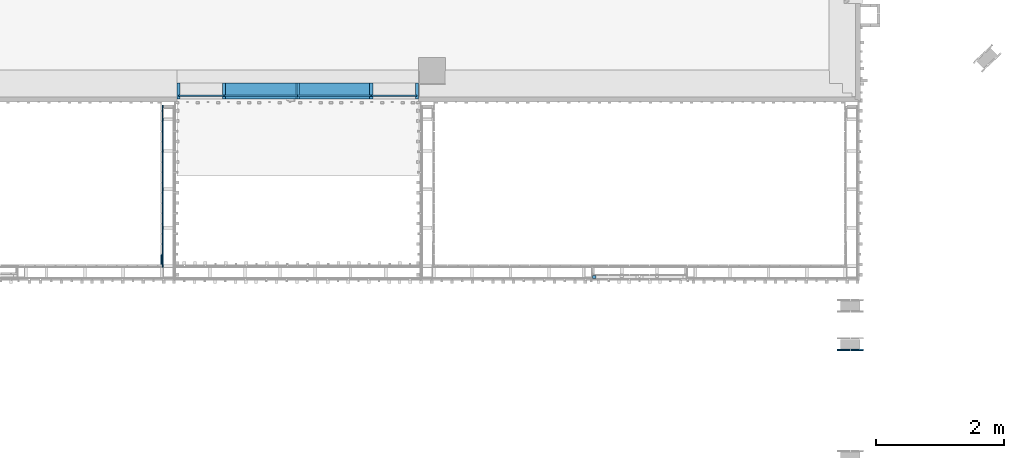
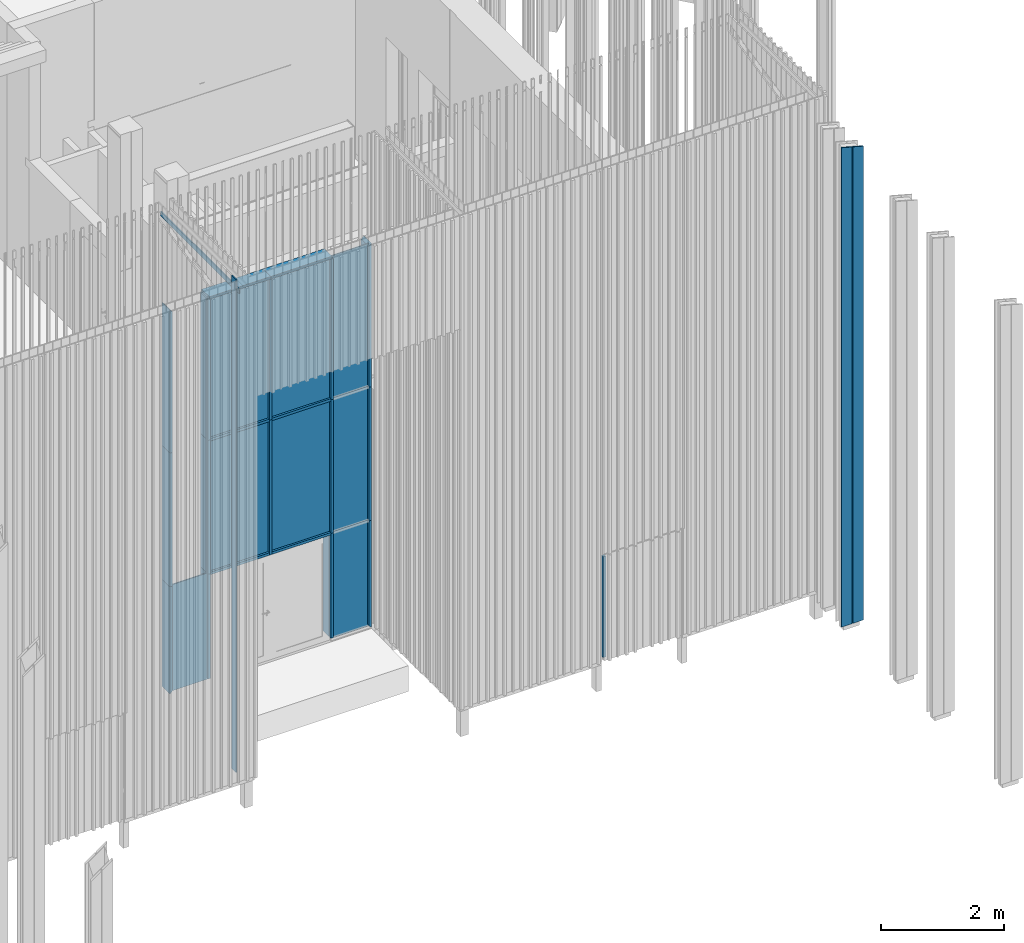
# One storey, part 37 of 390: 33 discrete accessories, 1 element without a shape of its own.
"""IFC2X3 building model written with IfcOpenShell, lengths in millimetres."""

from ifc_helpers import new_model, entity, si_unit, converted_unit, derived_unit, money_unit, direction, frame, frame_2d, origin_with_axes, origin_2d_with_axis, place, context, subcontext, project, spatial, polyline, rectangle, hollow_rectangle, outline, composite_profile, extrude, clip, halfspace, faceted_brep, source, transform, mapped, material, material_list, type_object, element, aggregate, save


model = new_model("IFC2X3")

# Units and contexts
model_context = context("Model", 3, precision=1e-05, world=origin_with_axes(), true_north=direction((0.0, 1.0)))
body_context = subcontext(model_context, "Body", "Model", "MODEL_VIEW")
ifc_project = project(units=[si_unit("LENGTHUNIT", "METRE", prefix="MILLI"), si_unit("AREAUNIT", "SQUARE_METRE"), si_unit("VOLUMEUNIT", "CUBIC_METRE"), converted_unit("PLANEANGLEUNIT", "DEGREE", entity("IfcPlaneAngleMeasure", 0.0174532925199), si_unit("PLANEANGLEUNIT", "RADIAN"), dimensions=[0, 0, 0, 0, 0, 0, 0]), si_unit("SOLIDANGLEUNIT", "STERADIAN"), money_unit("EUR"), converted_unit("TIMEUNIT", "Year", entity("IfcTimeMeasure", 31556926.0), si_unit("TIMEUNIT", "SECOND"), dimensions=[0, 0, 1, 0, 0, 0, 0]), si_unit("MASSUNIT", "GRAM", prefix="KILO"), si_unit("THERMODYNAMICTEMPERATUREUNIT", "DEGREE_CELSIUS"), si_unit("LUMINOUSINTENSITYUNIT", "LUMEN"), si_unit("ENERGYUNIT", "JOULE", prefix="MEGA"), derived_unit("THERMALCONDUCTANCEUNIT", [(si_unit("POWERUNIT", "WATT"), 1), (si_unit("LENGTHUNIT", "METRE"), -1), (si_unit("THERMODYNAMICTEMPERATUREUNIT", "KELVIN"), -1)]), derived_unit("SPECIFICHEATCAPACITYUNIT", [(si_unit("ENERGYUNIT", "JOULE"), 1), (si_unit("MASSUNIT", "GRAM", prefix="KILO"), -1), (si_unit("THERMODYNAMICTEMPERATUREUNIT", "KELVIN"), -1)]), derived_unit("MASSDENSITYUNIT", [(si_unit("MASSUNIT", "GRAM", prefix="KILO"), 1), (si_unit("VOLUMEUNIT", "CUBIC_METRE"), -1)])], contexts=[model_context])

# Site, building, storey
site_placement = place(None, origin_with_axes())
site = spatial("IfcSite", under=ifc_project, at=site_placement, Name="Site", CompositionType="ELEMENT")
building_placement = place(site_placement, origin_with_axes())
building = spatial("IfcBuilding", under=site, at=building_placement, Name="Building", CompositionType="ELEMENT")
storey_placement = place(building_placement, origin_with_axes())
storey = spatial("IfcBuildingStorey", under=building, at=storey_placement, Name="1 korrus", CompositionType="ELEMENT", Elevation=0.0)

# Discrete accessories
ifc_material_1 = material(Name="Puit - Konstruktsioon")
discrete_accessory_type_1 = type_object("IfcDiscreteAccessoryType", Name="Puit - Konstruktsioon 21 x 95")
discrete_accessory_1_placement = place(storey_placement, frame((128879.502725, 45214.0000337, 9710.00000604), z_axis=(0.0, 0.0, 1.0), x_axis=(-1.0, 0.0, 0.0)))
element("IfcDiscreteAccessory", 1, at=discrete_accessory_1_placement, inside=storey, type_object=discrete_accessory_type_1, material=ifc_material_1, Name="Puitroovitus", context=body_context, shape_type="Clipping", body=[
    clip(clip(extrude(rectangle(XDim=95.0, YDim=21.0, at=frame_2d((-47.5, 0.0), x_axis=(1.0, 0.0))), frame((0.0, 0.0, 0.0), z_axis=(0.0, 1.0, 0.0), x_axis=(0.0, 0.0, 1.0)), (0.0, 0.0, 1.0), 2539.99992172), halfspace(frame((0.0, 2539.99992172, 0.0), z_axis=(0.0, -1.0, 0.0), x_axis=(0.0, 0.0, -1.0)), True)), halfspace(frame((0.0, 0.0, 0.0), z_axis=(0.0, 1.0, 0.0), x_axis=(0.0, 0.0, 1.0)), True)),
])
ifc_material_2 = material(Name="Site specified")
discrete_accessory_type_2 = type_object("IfcDiscreteAccessoryType", Name="Site specified 150 x 22")
discrete_accessory_2_placement = place(storey_placement, frame((128857.999994, 42803.0000337, 100.000000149), z_axis=(0.0, 0.0, 1.0), x_axis=(0.0, 1.0, 0.0)))
element("IfcDiscreteAccessory", 2, at=discrete_accessory_2_placement, inside=storey, type_object=discrete_accessory_type_2, material=ifc_material_2, Name="Puitfassaadi laudis", context=body_context, shape_type="SweptSolid", body=[
    extrude(rectangle(XDim=150.0, YDim=22.0000000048, at=origin_2d_with_axis()), origin_with_axes(), (0.0, 0.0, 1.0), 9764.99999985),
])
ifc_material_3 = material(Name="GENEERILINE - VÄLINE VOODER")
discrete_accessory_type_3 = type_object("IfcDiscreteAccessoryType", Name="GENEERILINE - VÄLINE VOODER")
shared_shape_1 = source(origin_with_axes(), body_context, "Body", "Brep", [
    faceted_brep([(-162194.117401, 119664.914694, 100.0), (-162194.117401, 119664.914694, 9543.73066959), (-162215.953417, 119662.233568, 9543.73066959), (-162215.953417, 119662.233568, 100.0), (-162218.49127, 119863.423924, 100.0), (-162218.49127, 119863.423924, 9490.1408311), (-162240.327285, 119860.742798, 9490.1408311), (-162240.327285, 119860.742798, 100.0)], [[[0, 1, 2, 3]], [[0, 4, 5, 1]], [[1, 5, 6, 2]], [[2, 6, 7, 3]], [[3, 7, 4, 0]], [[4, 7, 6, 5]]]),
])
discrete_accessory_3_placement = place(storey_placement, frame((1090.55889161, -105023.662465, 0.0), z_axis=(0.0, 0.0, 1.0), x_axis=(-0.121869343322, -0.992546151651, 0.0)))
element("IfcDiscreteAccessory", 3, at=discrete_accessory_3_placement, inside=storey, type_object=discrete_accessory_type_3, material=ifc_material_3, Name="Päikesevarjestuspost", context=body_context, shape_type="MappedRepresentation", body=[
    mapped(shared_shape_1, transform((0.0, 0.0, 0.0))),
])
shared_shape_2 = source(origin_with_axes(), body_context, "Body", "Brep", [
    faceted_brep([(-162190.360855, 119453.798876, 100.0), (-162168.524839, 119456.480002, 100.0), (-162168.524839, 119456.480002, 9600.0), (-162190.360855, 119453.798876, 9600.0), (-162214.734723, 119652.308107, 100.0), (-162192.898708, 119654.989232, 100.0), (-162192.898708, 119654.989232, 9546.41016151), (-162214.734723, 119652.308107, 9546.41016151)], [[[0, 1, 2, 3]], [[0, 4, 5, 1]], [[1, 5, 6, 2]], [[2, 6, 7, 3]], [[3, 7, 4, 0]], [[5, 4, 7, 6]]]),
])
discrete_accessory_4_placement = place(storey_placement, frame((1090.55889161, -105023.662465, 0.0), z_axis=(0.0, 0.0, 1.0), x_axis=(-0.121869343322, -0.992546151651, 0.0)))
element("IfcDiscreteAccessory", 4, at=discrete_accessory_4_placement, inside=storey, type_object=discrete_accessory_type_3, material=ifc_material_3, Name="Päikesevarjestuspost", context=body_context, shape_type="MappedRepresentation", body=[
    mapped(shared_shape_2, transform((0.0, 0.0, 0.0))),
])
ifc_material_4 = material(Name="Teras (musta värvi)")
ifc_material_list_1 = material_list([ifc_material_4, ifc_material_4])
discrete_accessory_type_4 = type_object("IfcDiscreteAccessoryType", Name="Teras (musta värvi) 42 x 42")
discrete_accessory_5_placement = place(storey_placement, frame((135625.000037, 42526.9999649, 150.0), z_axis=(0.0, 0.0, 1.0), x_axis=(1.0, 0.0, 0.0)))
element("IfcDiscreteAccessory", 5, at=discrete_accessory_5_placement, inside=storey, type_object=discrete_accessory_type_4, material=ifc_material_list_1, Name="Metall-raam", context=body_context, shape_type="SweptSolid", body=[
    extrude(composite_profile([hollow_rectangle(XDim=50.0, YDim=50.0, WallThickness=4.0, at=origin_2d_with_axis()), rectangle(XDim=42.0, YDim=42.0, at=origin_2d_with_axis())]), origin_with_axes(), (0.0, 0.0, 1.0), 2000.0),
])

# Curtain wall, discrete accessories
curtain_wall_type = type_object("IfcCurtainWallType", Name="KLF-13", PredefinedType="NOTDEFINED")
curtain_wall_placement = place(storey_placement, frame((129470.000002, 45359.9999163, 0.0), z_axis=(0.0, 0.0, 1.0), x_axis=(1.0, 0.0, 0.0)))
curtain_wall = element("IfcCurtainWall", 6, at=curtain_wall_placement, inside=storey, type_object=curtain_wall_type, Name="Klaasfassaad")
ifc_material_5 = material(Name="Klaas")
discrete_accessory_type_5 = type_object("IfcDiscreteAccessoryType", Name="Distinct Panel 720 x 2105 x 20")
discrete_accessory_6_placement = place(curtain_wall_placement, frame((0.0, 0.0, 1062.5), z_axis=(0.0, 0.0, 1.0), x_axis=(-1.0, -9.82172661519e-09, 0.0)))
discrete_accessory_6 = element("IfcDiscreteAccessory", 7, at=discrete_accessory_6_placement, type_object=discrete_accessory_type_5, material=ifc_material_5, Name="KLF-13 klaaspakett", context=body_context, shape_type="SweptSolid", body=[
    extrude(outline(polyline([(-370.000013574, -1062.50001252), (350.000007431, -1062.50001252), (350.000007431, 1042.50000733), (-370.000013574, 1042.50000733), (-370.000013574, -1062.50001252)])), frame((0.0, -9.99999980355, 0.0), z_axis=(0.0, 1.0, 0.0), x_axis=(1.0, 0.0, 0.0)), (0.0, 0.0, 1.0), 20.0000070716),
])
discrete_accessory_7_placement = place(curtain_wall_placement, frame((3040.00000009, 2.98580360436e-05, 1062.5), z_axis=(0.0, 0.0, 1.0), x_axis=(-1.0, -9.82172661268e-09, 0.0)))
discrete_accessory_7 = element("IfcDiscreteAccessory", 8, at=discrete_accessory_7_placement, type_object=discrete_accessory_type_5, material=ifc_material_5, Name="KLF-13 klaaspakett", context=body_context, shape_type="SweptSolid", body=[
    extrude(outline(polyline([(-349.999987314, -1062.50001252), (370.000002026, -1062.50001252), (370.000002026, 1042.50000733), (-349.999987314, 1042.50000733), (-349.999987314, -1062.50001252)])), frame((0.0, -9.99999999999, 0.0), z_axis=(0.0, 1.0, 0.0), x_axis=(1.0, 0.0, 0.0)), (0.0, 0.0, 1.0), 20.0000070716),
])
discrete_accessory_type_6 = type_object("IfcDiscreteAccessoryType", Name="Distinct Panel 720 x 2820 x 20")
discrete_accessory_8_placement = place(curtain_wall_placement, frame((3040.00000009, 2.98580360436e-05, 6194.99998063), z_axis=(0.0, 0.0, 1.0), x_axis=(-1.0, -9.82172661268e-09, 0.0)))
discrete_accessory_8 = element("IfcDiscreteAccessory", 9, at=discrete_accessory_8_placement, type_object=discrete_accessory_type_6, material=ifc_material_5, Name="KLF-13 klaaspakett", context=body_context, shape_type="SweptSolid", body=[
    extrude(outline(polyline([(-349.999994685, -1399.99998865), (370.000012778, -1399.99998865), (370.000012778, 1419.99998063), (-349.999994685, 1419.99998063), (-349.999994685, -1399.99998865)])), frame((0.0, -9.99999999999, 0.0), z_axis=(0.0, 1.0, 0.0), x_axis=(1.0, 0.0, 0.0)), (0.0, 0.0, 1.0), 20.0000070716),
])
discrete_accessory_type_7 = type_object("IfcDiscreteAccessoryType", Name="Distinct Panel 1150 x 2650 x 20")
discrete_accessory_9_placement = place(curtain_wall_placement, frame((945.0, 9.28152843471e-06, 3450.0), z_axis=(0.0, 0.0, 1.0), x_axis=(-1.0, -9.82172102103e-09, 0.0)))
discrete_accessory_9 = element("IfcDiscreteAccessory", 10, at=discrete_accessory_9_placement, type_object=discrete_accessory_type_7, material=ifc_material_5, Name="KLF-13 klaaspakett", context=body_context, shape_type="SweptSolid", body=[
    extrude(outline(polyline([(-574.999993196, -1325.0), (575.000014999, -1325.0), (575.000014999, 1325.0), (-574.999993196, 1325.0), (-574.999993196, -1325.0)])), frame((0.0, -9.99999999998, 0.0), z_axis=(0.0, 1.0, 0.0), x_axis=(1.0, 0.0, 0.0)), (0.0, 0.0, 1.0), 20.000011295),
])
discrete_accessory_10_placement = place(curtain_wall_placement, frame((2095.0, 2.05765076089e-05, 3450.0), z_axis=(0.0, 0.0, 1.0), x_axis=(-1.0, -9.82172719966e-09, 0.0)))
discrete_accessory_10 = element("IfcDiscreteAccessory", 11, at=discrete_accessory_10_placement, type_object=discrete_accessory_type_7, material=ifc_material_5, Name="KLF-13 klaaspakett", context=body_context, shape_type="SweptSolid", body=[
    extrude(outline(polyline([(-574.999993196, -1325.0), (575.000014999, -1325.0), (575.000014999, 1325.0), (-574.999993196, 1325.0), (-574.999993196, -1325.0)])), frame((0.0, -10.0, 0.0), z_axis=(0.0, 1.0, 0.0), x_axis=(1.0, 0.0, 0.0)), (0.0, 0.0, 1.0), 20.000011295),
])
discrete_accessory_type_8 = type_object("IfcDiscreteAccessoryType", Name="Distinct Panel 720 x 2650 x 20")
discrete_accessory_11_placement = place(curtain_wall_placement, frame((3040.00000009, 2.98580360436e-05, 3450.0), z_axis=(0.0, 0.0, 1.0), x_axis=(-1.0, -9.82172661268e-09, 0.0)))
discrete_accessory_11 = element("IfcDiscreteAccessory", 12, at=discrete_accessory_11_placement, type_object=discrete_accessory_type_8, material=ifc_material_5, Name="KLF-13 klaaspakett", context=body_context, shape_type="SweptSolid", body=[
    extrude(outline(polyline([(-349.999971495, -1325.0), (370.000015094, -1325.0), (370.000015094, 1325.0), (-349.999971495, 1325.0), (-349.999971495, -1325.0)])), frame((0.0, -9.99999999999, 0.0), z_axis=(0.0, 1.0, 0.0), x_axis=(1.0, 0.0, 0.0)), (0.0, 0.0, 1.0), 20.0000070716),
])
discrete_accessory_type_9 = type_object("IfcDiscreteAccessoryType", Name="Distinct Panel 1150 x 2820 x 20")
discrete_accessory_12_placement = place(curtain_wall_placement, frame((2095.0, 2.05765076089e-05, 6194.99998063), z_axis=(0.0, 0.0, 1.0), x_axis=(-1.0, -9.82172719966e-09, 0.0)))
discrete_accessory_12 = element("IfcDiscreteAccessory", 13, at=discrete_accessory_12_placement, type_object=discrete_accessory_type_9, material=ifc_material_5, Name="KLF-13 klaaspakett", context=body_context, shape_type="SweptSolid", body=[
    extrude(outline(polyline([(-574.999970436, -1399.99998865), (575.000012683, -1399.99998865), (575.000012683, 1419.99998063), (-575.000012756, 1419.99998063), (-574.999970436, -1399.99998865)])), frame((0.0, -10.0, 0.0), z_axis=(0.0, 1.0, 0.0), x_axis=(1.0, 0.0, 0.0)), (0.0, 0.0, 1.0), 20.000011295),
])
discrete_accessory_13_placement = place(curtain_wall_placement, frame((945.0, 9.28152843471e-06, 6194.99998063), z_axis=(0.0, 0.0, 1.0), x_axis=(-1.0, -9.82172102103e-09, 0.0)))
discrete_accessory_13 = element("IfcDiscreteAccessory", 14, at=discrete_accessory_13_placement, type_object=discrete_accessory_type_9, material=ifc_material_5, Name="KLF-13 klaaspakett", context=body_context, shape_type="SweptSolid", body=[
    extrude(outline(polyline([(-574.999970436, -1399.99998865), (575.000012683, -1399.99998865), (575.000012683, 1419.99998063), (-575.000012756, 1419.99998063), (-574.999970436, -1399.99998865)])), frame((0.0, -9.99999999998, 0.0), z_axis=(0.0, 1.0, 0.0), x_axis=(1.0, 0.0, 0.0)), (0.0, 0.0, 1.0), 20.000011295),
])
ifc_material_6 = material(Name="Aluminium MUST")
ifc_material_list_2 = material_list([ifc_material_6, ifc_material_6])
discrete_accessory_type_10 = type_object("IfcDiscreteAccessoryType", Name="50 x 250")
discrete_accessory_14_placement = place(curtain_wall_placement, frame((370.0, 3.63403529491e-06, 0.0), z_axis=(0.0, 0.0, 1.0), x_axis=(-1.0, -9.82172381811e-09, 0.0)))
discrete_accessory_14 = element("IfcDiscreteAccessory", 15, at=discrete_accessory_14_placement, type_object=discrete_accessory_type_10, material=ifc_material_list_2, Name="KLF-13 profiil", context=body_context, shape_type="SweptSolid", body=[
    extrude(outline(polyline([(24.9999999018, 10.0000002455), (24.9999980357, 200.000000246), (-25.0000019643, 199.999999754), (-25.0000000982, 9.99999975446), (24.9999999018, 10.0000002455)])), frame((0.0, 0.0, 50.0), z_axis=(0.0, 0.0, 1.0), x_axis=(-1.0, 9.82172381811e-09, 0.0)), (0.0, 0.0, 1.0), 2075.0),
    extrude(outline(polyline([(25.0000000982, -9.99999975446), (-24.9999999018, -10.0000002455), (-24.9999995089, -50.0000002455), (25.0000004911, -49.9999997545), (25.0000000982, -9.99999975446)])), frame((0.0, 0.0, 50.0), z_axis=(0.0, 0.0, 1.0), x_axis=(-1.0, 9.82172381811e-09, 0.0)), (0.0, 0.0, 1.0), 2075.0),
])
discrete_accessory_15_placement = place(curtain_wall_placement, frame((370.0, 3.63403529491e-06, 2125.0), z_axis=(1.0, 9.82172102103e-09, 0.0), x_axis=(0.0, 0.0, 1.0)))
discrete_accessory_15 = element("IfcDiscreteAccessory", 16, at=discrete_accessory_15_placement, type_object=discrete_accessory_type_10, material=ifc_material_list_2, Name="KLF-13 profiil", context=body_context, shape_type="SweptSolid", body=[
    extrude(outline(polyline([(-10.0, 25.0), (-200.0, 25.0), (-200.0, -25.0), (-10.0, -25.0), (-10.0, 25.0)])), frame((0.0, 0.0, 25.0), z_axis=(0.0, 0.0, 1.0), x_axis=(0.0, 1.0, 0.0)), (0.0, 0.0, 1.0), 1100.0),
    extrude(outline(polyline([(10.0, 25.0), (10.0, -25.0), (50.0, -25.0), (50.0, 25.0), (10.0, 25.0)])), frame((0.0, 0.0, 25.0), z_axis=(0.0, 0.0, 1.0), x_axis=(0.0, 1.0, 0.0)), (0.0, 0.0, 1.0), 1100.0),
])
discrete_accessory_16_placement = place(curtain_wall_placement, frame((1520.0, 1.49290144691e-05, 4775.0), z_axis=(0.0, 0.0, 1.0), x_axis=(-1.0, -9.82172411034e-09, 0.0)))
discrete_accessory_16 = element("IfcDiscreteAccessory", 17, at=discrete_accessory_16_placement, type_object=discrete_accessory_type_10, material=ifc_material_list_2, Name="KLF-13 profiil", context=body_context, shape_type="SweptSolid", body=[
    extrude(outline(polyline([(24.9999999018, 10.0000002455), (24.9999980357, 200.000000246), (-25.0000019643, 199.999999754), (-25.0000000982, 9.99999975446), (24.9999999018, 10.0000002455)])), frame((0.0, 0.0, 0.0), z_axis=(0.0, 0.0, 1.0), x_axis=(-1.0, 9.82172411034e-09, 0.0)), (0.0, 0.0, 1.0), 2789.99996126),
    extrude(outline(polyline([(25.0000000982, -9.99999975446), (-24.9999999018, -10.0000002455), (-24.9999995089, -50.0000002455), (25.0000004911, -49.9999997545), (25.0000000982, -9.99999975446)])), frame((0.0, 0.0, 0.0), z_axis=(0.0, 0.0, 1.0), x_axis=(-1.0, 9.82172411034e-09, 0.0)), (0.0, 0.0, 1.0), 2789.99996126),
])
discrete_accessory_17_placement = place(curtain_wall_placement, frame((1520.0, 1.49290144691e-05, 2125.0), z_axis=(1.0, 9.82172719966e-09, 0.0), x_axis=(0.0, 0.0, 1.0)))
discrete_accessory_17 = element("IfcDiscreteAccessory", 18, at=discrete_accessory_17_placement, type_object=discrete_accessory_type_10, material=ifc_material_list_2, Name="KLF-13 profiil", context=body_context, shape_type="SweptSolid", body=[
    extrude(outline(polyline([(-10.0, 25.0), (-200.0, 25.0), (-200.0, -25.0), (-10.0, -25.0), (-10.0, 25.0)])), frame((0.0, 0.0, 25.0), z_axis=(0.0, 0.0, 1.0), x_axis=(0.0, 1.0, 0.0)), (0.0, 0.0, 1.0), 1100.0),
    extrude(outline(polyline([(9.99999999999, 25.0), (9.99999999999, -25.0), (50.0, -25.0), (50.0, 25.0), (9.99999999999, 25.0)])), frame((0.0, 0.0, 25.0), z_axis=(0.0, 0.0, 1.0), x_axis=(0.0, 1.0, 0.0)), (0.0, 0.0, 1.0), 1100.0),
])
discrete_accessory_18_placement = place(curtain_wall_placement, frame((2670.0, 2.62240007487e-05, 0.0), z_axis=(0.0, 0.0, 1.0), x_axis=(-1.0, -9.82172381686e-09, 0.0)))
discrete_accessory_18 = element("IfcDiscreteAccessory", 19, at=discrete_accessory_18_placement, type_object=discrete_accessory_type_10, material=ifc_material_list_2, Name="KLF-13 profiil", context=body_context, shape_type="SweptSolid", body=[
    extrude(outline(polyline([(24.9999999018, 10.0000002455), (24.9999980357, 200.000000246), (-25.0000019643, 199.999999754), (-25.0000000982, 9.99999975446), (24.9999999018, 10.0000002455)])), frame((0.0, 0.0, 50.0), z_axis=(0.0, 0.0, 1.0), x_axis=(-1.0, 9.82172381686e-09, 0.0)), (0.0, 0.0, 1.0), 2075.0),
    extrude(outline(polyline([(25.0000000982, -9.99999975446), (-24.9999999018, -10.0000002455), (-24.9999995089, -50.0000002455), (25.0000004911, -49.9999997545), (25.0000000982, -9.99999975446)])), frame((0.0, 0.0, 50.0), z_axis=(0.0, 0.0, 1.0), x_axis=(-1.0, 9.82172381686e-09, 0.0)), (0.0, 0.0, 1.0), 2075.0),
])
discrete_accessory_19_placement = place(curtain_wall_placement, frame((3410.00000019, 3.34920784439e-05, 0.0), z_axis=(0.0, 0.0, 1.0), x_axis=(-1.0, -9.82172661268e-09, 0.0)))
discrete_accessory_19 = element("IfcDiscreteAccessory", 20, at=discrete_accessory_19_placement, type_object=discrete_accessory_type_10, material=ifc_material_6, Name="KLF-13 profiil", context=body_context, shape_type="Clipping", body=[
    clip(extrude(outline(polyline([(-25.0000000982, 9.99999975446), (-24.9999999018, -10.0000002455), (-49.9999999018, -10.0000004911), (-49.9999995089, -50.0000004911), (4.91098717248e-07, -50.0), (-1.96433802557e-06, 200.0), (-50.0000019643, 199.999999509), (-50.0000000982, 9.99999950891), (-25.0000000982, 9.99999975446)])), frame((0.0, 0.0, 0.0), z_axis=(0.0, 0.0, 1.0), x_axis=(-1.0, 9.82172661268e-09, 0.0)), (0.0, 0.0, 1.0), 2125.0), halfspace(frame((0.0, 0.0, 0.0), z_axis=(-0.707106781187, 0.0, 0.707106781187), x_axis=(0.0, -1.0, 0.0)), True)),
])
discrete_accessory_20_placement = place(curtain_wall_placement, frame((-370.0, -3.63404240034e-06, 0.0), z_axis=(0.0, 0.0, 1.0), x_axis=(-1.0, -9.82172661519e-09, 0.0)))
discrete_accessory_20 = element("IfcDiscreteAccessory", 21, at=discrete_accessory_20_placement, type_object=discrete_accessory_type_10, material=ifc_material_6, Name="KLF-13 profiil", context=body_context, shape_type="Clipping", body=[
    clip(extrude(outline(polyline([(24.9999999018, 10.0000002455), (49.9999999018, 10.0000004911), (49.9999980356, 200.000000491), (-1.96433802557e-06, 200.0), (4.91098717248e-07, -50.0), (50.0000004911, -49.9999995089), (50.0000000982, -9.99999950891), (25.0000000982, -9.99999975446), (24.9999999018, 10.0000002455)])), frame((0.0, 0.0, 0.0), z_axis=(0.0, 0.0, 1.0), x_axis=(-1.0, 9.82172661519e-09, 0.0)), (0.0, 0.0, 1.0), 2125.0), halfspace(frame((0.0, 0.0, 0.0), z_axis=(0.707106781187, 0.0, 0.707106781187), x_axis=(0.0, -1.0, 0.0)), True)),
])
discrete_accessory_21_placement = place(curtain_wall_placement, frame((-370.0, -3.63404240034e-06, 2125.0), z_axis=(0.0, 0.0, 1.0), x_axis=(-1.0, -9.82172661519e-09, 0.0)))
discrete_accessory_21 = element("IfcDiscreteAccessory", 22, at=discrete_accessory_21_placement, type_object=discrete_accessory_type_10, material=ifc_material_6, Name="KLF-13 profiil", context=body_context, shape_type="SweptSolid", body=[
    extrude(outline(polyline([(24.9999999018, 10.0000002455), (49.9999999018, 10.0000004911), (49.9999980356, 200.000000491), (-1.96433802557e-06, 200.0), (4.91098717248e-07, -50.0), (50.0000004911, -49.9999995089), (50.0000000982, -9.99999950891), (25.0000000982, -9.99999975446), (24.9999999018, 10.0000002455)])), frame((0.0, 0.0, 0.0), z_axis=(0.0, 0.0, 1.0), x_axis=(-1.0, 9.82172661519e-09, 0.0)), (0.0, 0.0, 1.0), 2650.0),
])
discrete_accessory_22_placement = place(curtain_wall_placement, frame((370.0, 3.63403529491e-06, 4775.0), z_axis=(0.0, 0.0, 1.0), x_axis=(-1.0, -9.82172381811e-09, 0.0)))
discrete_accessory_22 = element("IfcDiscreteAccessory", 23, at=discrete_accessory_22_placement, type_object=discrete_accessory_type_10, material=ifc_material_list_2, Name="KLF-13 profiil", context=body_context, shape_type="SweptSolid", body=[
    extrude(outline(polyline([(24.9999999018, 10.0000002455), (24.9999980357, 200.000000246), (-25.0000019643, 199.999999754), (-25.0000000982, 9.99999975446), (24.9999999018, 10.0000002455)])), frame((0.0, 0.0, 0.0), z_axis=(0.0, 0.0, 1.0), x_axis=(-1.0, 9.82172381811e-09, 0.0)), (0.0, 0.0, 1.0), 2789.99996126),
    extrude(outline(polyline([(25.0000000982, -9.99999975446), (-24.9999999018, -10.0000002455), (-24.9999995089, -50.0000002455), (25.0000004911, -49.9999997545), (25.0000000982, -9.99999975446)])), frame((0.0, 0.0, 0.0), z_axis=(0.0, 0.0, 1.0), x_axis=(-1.0, 9.82172381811e-09, 0.0)), (0.0, 0.0, 1.0), 2789.99996126),
])
discrete_accessory_23_placement = place(curtain_wall_placement, frame((370.0, 3.63403529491e-06, 2125.0), z_axis=(0.0, 0.0, 1.0), x_axis=(-1.0, -9.82172381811e-09, 0.0)))
discrete_accessory_23 = element("IfcDiscreteAccessory", 24, at=discrete_accessory_23_placement, type_object=discrete_accessory_type_10, material=ifc_material_list_2, Name="KLF-13 profiil", context=body_context, shape_type="SweptSolid", body=[
    extrude(outline(polyline([(24.9999999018, 10.0000002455), (24.9999980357, 200.000000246), (-25.0000019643, 199.999999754), (-25.0000000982, 9.99999975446), (24.9999999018, 10.0000002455)])), frame((0.0, 0.0, 0.0), z_axis=(0.0, 0.0, 1.0), x_axis=(-1.0, 9.82172381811e-09, 0.0)), (0.0, 0.0, 1.0), 2650.0),
    extrude(outline(polyline([(25.0000000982, -9.99999975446), (-24.9999999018, -10.0000002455), (-24.9999995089, -50.0000002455), (25.0000004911, -49.9999997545), (25.0000000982, -9.99999975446)])), frame((0.0, 0.0, 0.0), z_axis=(0.0, 0.0, 1.0), x_axis=(-1.0, 9.82172381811e-09, 0.0)), (0.0, 0.0, 1.0), 2650.0),
])
discrete_accessory_24_placement = place(curtain_wall_placement, frame((2670.0, 2.62240007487e-05, 7614.99996126), z_axis=(-1.0, -9.82172719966e-09, 0.0), x_axis=(0.0, 0.0, -1.0)))
discrete_accessory_24 = element("IfcDiscreteAccessory", 25, at=discrete_accessory_24_placement, type_object=discrete_accessory_type_10, material=ifc_material_6, Name="KLF-13 profiil", context=body_context, shape_type="SweptSolid", body=[
    extrude(outline(polyline([(10.0, 25.0), (-10.0, 25.0), (-10.0, 50.0), (-50.0, 50.0), (-50.0, 0.0), (200.0, 0.0), (200.0, 50.0), (10.0, 50.0), (10.0, 25.0)])), frame((0.0, 0.0, 0.0), z_axis=(0.0, 0.0, 1.0), x_axis=(0.0, -1.0, 0.0)), (0.0, 0.0, 1.0), 1150.0),
])
discrete_accessory_25_placement = place(curtain_wall_placement, frame((1520.0, 1.49290144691e-05, 2125.0), z_axis=(0.0, 0.0, 1.0), x_axis=(-1.0, -9.82172411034e-09, 0.0)))
discrete_accessory_25 = element("IfcDiscreteAccessory", 26, at=discrete_accessory_25_placement, type_object=discrete_accessory_type_10, material=ifc_material_list_2, Name="KLF-13 profiil", context=body_context, shape_type="SweptSolid", body=[
    extrude(outline(polyline([(24.9999999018, 10.0000002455), (24.9999980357, 200.000000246), (-25.0000019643, 199.999999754), (-25.0000000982, 9.99999975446), (24.9999999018, 10.0000002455)])), frame((0.0, 0.0, -25.0), z_axis=(0.0, 0.0, 1.0), x_axis=(-1.0, 9.82172411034e-09, 0.0)), (0.0, 0.0, 1.0), 2675.0),
    extrude(outline(polyline([(25.0000000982, -9.99999975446), (-24.9999999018, -10.0000002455), (-24.9999995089, -50.0000002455), (25.0000004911, -49.9999997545), (25.0000000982, -9.99999975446)])), frame((0.0, 0.0, -25.0), z_axis=(0.0, 0.0, 1.0), x_axis=(-1.0, 9.82172411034e-09, 0.0)), (0.0, 0.0, 1.0), 2675.0),
])
discrete_accessory_26_placement = place(curtain_wall_placement, frame((1520.0, 1.49290144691e-05, 7614.99996126), z_axis=(-1.0, -9.82172102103e-09, 0.0), x_axis=(0.0, 0.0, -1.0)))
discrete_accessory_26 = element("IfcDiscreteAccessory", 27, at=discrete_accessory_26_placement, type_object=discrete_accessory_type_10, material=ifc_material_6, Name="KLF-13 profiil", context=body_context, shape_type="SweptSolid", body=[
    extrude(outline(polyline([(10.0, 25.0), (-10.0, 25.0), (-10.0, 50.0), (-50.0, 50.0), (-50.0, 0.0), (200.0, 0.0), (200.0, 50.0), (10.0, 50.0), (10.0, 25.0)])), frame((0.0, 0.0, 0.0), z_axis=(0.0, 0.0, 1.0), x_axis=(0.0, -1.0, 0.0)), (0.0, 0.0, 1.0), 1150.0),
])
discrete_accessory_27_placement = place(curtain_wall_placement, frame((2670.0, 2.62240007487e-05, 2125.0), z_axis=(0.0, 0.0, 1.0), x_axis=(-1.0, -9.82172690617e-09, 0.0)))
discrete_accessory_27 = element("IfcDiscreteAccessory", 28, at=discrete_accessory_27_placement, type_object=discrete_accessory_type_10, material=ifc_material_list_2, Name="KLF-13 profiil", context=body_context, shape_type="SweptSolid", body=[
    extrude(outline(polyline([(24.9999999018, 10.0000002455), (24.9999980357, 200.000000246), (-25.0000019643, 199.999999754), (-25.0000000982, 9.99999975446), (24.9999999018, 10.0000002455)])), frame((0.0, 0.0, 0.0), z_axis=(0.0, 0.0, 1.0), x_axis=(-1.0, 9.82172690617e-09, 0.0)), (0.0, 0.0, 1.0), 2650.0),
    extrude(outline(polyline([(25.0000000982, -9.99999975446), (-24.9999999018, -10.0000002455), (-24.9999995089, -50.0000002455), (25.0000004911, -49.9999997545), (25.0000000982, -9.99999975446)])), frame((0.0, 0.0, 0.0), z_axis=(0.0, 0.0, 1.0), x_axis=(-1.0, 9.82172690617e-09, 0.0)), (0.0, 0.0, 1.0), 2650.0),
])
discrete_accessory_28_placement = place(curtain_wall_placement, frame((2670.0, 2.62240007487e-05, 4775.0), z_axis=(0.0, 0.0, 1.0), x_axis=(-1.0, -9.82172690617e-09, 0.0)))
discrete_accessory_28 = element("IfcDiscreteAccessory", 29, at=discrete_accessory_28_placement, type_object=discrete_accessory_type_10, material=ifc_material_list_2, Name="KLF-13 profiil", context=body_context, shape_type="SweptSolid", body=[
    extrude(outline(polyline([(24.9999999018, 10.0000002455), (24.9999980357, 200.000000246), (-25.0000019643, 199.999999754), (-25.0000000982, 9.99999975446), (24.9999999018, 10.0000002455)])), frame((0.0, 0.0, 0.0), z_axis=(0.0, 0.0, 1.0), x_axis=(-1.0, 9.82172690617e-09, 0.0)), (0.0, 0.0, 1.0), 2789.99996126),
    extrude(outline(polyline([(25.0000000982, -9.99999975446), (-24.9999999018, -10.0000002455), (-24.9999995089, -50.0000002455), (25.0000004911, -49.9999997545), (25.0000000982, -9.99999975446)])), frame((0.0, 0.0, 0.0), z_axis=(0.0, 0.0, 1.0), x_axis=(-1.0, 9.82172690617e-09, 0.0)), (0.0, 0.0, 1.0), 2789.99996126),
])
discrete_accessory_29_placement = place(curtain_wall_placement, frame((3410.00000019, 3.34920784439e-05, 2125.0), z_axis=(0.0, 0.0, 1.0), x_axis=(-1.0, -9.82172661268e-09, 0.0)))
discrete_accessory_29 = element("IfcDiscreteAccessory", 30, at=discrete_accessory_29_placement, type_object=discrete_accessory_type_10, material=ifc_material_6, Name="KLF-13 profiil", context=body_context, shape_type="SweptSolid", body=[
    extrude(outline(polyline([(-25.0000000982, 9.99999975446), (-24.9999999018, -10.0000002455), (-49.9999999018, -10.0000004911), (-49.9999995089, -50.0000004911), (4.91098717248e-07, -50.0), (-1.96433802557e-06, 200.0), (-50.0000019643, 199.999999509), (-50.0000000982, 9.99999950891), (-25.0000000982, 9.99999975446)])), frame((0.0, 0.0, 0.0), z_axis=(0.0, 0.0, 1.0), x_axis=(-1.0, 9.82172661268e-09, 0.0)), (0.0, 0.0, 1.0), 2650.0),
])
discrete_accessory_30_placement = place(curtain_wall_placement, frame((-370.0, -3.63404240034e-06, 4775.0), z_axis=(0.0, 0.0, 1.0), x_axis=(-1.0, -9.82172661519e-09, 0.0)))
discrete_accessory_30 = element("IfcDiscreteAccessory", 31, at=discrete_accessory_30_placement, type_object=discrete_accessory_type_10, material=ifc_material_6, Name="KLF-13 profiil", context=body_context, shape_type="Clipping", body=[
    clip(extrude(outline(polyline([(24.9999999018, 10.0000002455), (49.9999999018, 10.0000004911), (49.9999980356, 200.000000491), (-1.96433802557e-06, 200.0), (4.91098717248e-07, -50.0), (50.0000004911, -49.9999995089), (50.0000000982, -9.99999950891), (25.0000000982, -9.99999975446), (24.9999999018, 10.0000002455)])), frame((0.0, 0.0, 0.0), z_axis=(0.0, 0.0, 1.0), x_axis=(-1.0, 9.82172661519e-09, 0.0)), (0.0, 0.0, 1.0), 2839.99996126), halfspace(frame((-1419.99998063, 0.0, 1419.99998063), z_axis=(0.707106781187, 0.0, -0.707106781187), x_axis=(0.0, 1.0, 0.0)), True)),
])
discrete_accessory_31_placement = place(curtain_wall_placement, frame((370.0, 3.63403529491e-06, 4775.0), z_axis=(1.0, 9.82172102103e-09, 0.0), x_axis=(0.0, 0.0, 1.0)))
discrete_accessory_31 = element("IfcDiscreteAccessory", 32, at=discrete_accessory_31_placement, type_object=discrete_accessory_type_10, material=ifc_material_list_2, Name="KLF-13 profiil", context=body_context, shape_type="SweptSolid", body=[
    extrude(outline(polyline([(-10.0, 25.0), (-200.0, 25.0), (-200.0, -25.0), (-10.0, -25.0), (-10.0, 25.0)])), frame((0.0, 0.0, 25.0), z_axis=(0.0, 0.0, 1.0), x_axis=(0.0, 1.0, 0.0)), (0.0, 0.0, 1.0), 1100.0),
    extrude(outline(polyline([(10.0, 25.0), (10.0, -25.0), (50.0, -25.0), (50.0, 25.0), (10.0, 25.0)])), frame((0.0, 0.0, 25.0), z_axis=(0.0, 0.0, 1.0), x_axis=(0.0, 1.0, 0.0)), (0.0, 0.0, 1.0), 1100.0),
])
discrete_accessory_32_placement = place(curtain_wall_placement, frame((1520.0, 1.49290144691e-05, 4775.0), z_axis=(1.0, 9.82172719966e-09, 0.0), x_axis=(0.0, 0.0, 1.0)))
discrete_accessory_32 = element("IfcDiscreteAccessory", 33, at=discrete_accessory_32_placement, type_object=discrete_accessory_type_10, material=ifc_material_list_2, Name="KLF-13 profiil", context=body_context, shape_type="SweptSolid", body=[
    extrude(outline(polyline([(-10.0, 25.0), (-200.0, 25.0), (-200.0, -25.0), (-10.0, -25.0), (-10.0, 25.0)])), frame((0.0, 0.0, 25.0), z_axis=(0.0, 0.0, 1.0), x_axis=(0.0, 1.0, 0.0)), (0.0, 0.0, 1.0), 1100.0),
    extrude(outline(polyline([(9.99999999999, 25.0), (9.99999999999, -25.0), (50.0, -25.0), (50.0, 25.0), (9.99999999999, 25.0)])), frame((0.0, 0.0, 25.0), z_axis=(0.0, 0.0, 1.0), x_axis=(0.0, 1.0, 0.0)), (0.0, 0.0, 1.0), 1100.0),
])
discrete_accessory_33_placement = place(curtain_wall_placement, frame((3410.00000019, 3.34920784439e-05, 4775.0), z_axis=(0.0, 0.0, 1.0), x_axis=(-1.0, -9.82172661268e-09, 0.0)))
discrete_accessory_33 = element("IfcDiscreteAccessory", 34, at=discrete_accessory_33_placement, type_object=discrete_accessory_type_10, material=ifc_material_6, Name="KLF-13 profiil", context=body_context, shape_type="Clipping", body=[
    clip(extrude(outline(polyline([(-25.0000000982, 9.99999975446), (-24.9999999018, -10.0000002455), (-49.9999999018, -10.0000004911), (-49.9999995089, -50.0000004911), (4.91098717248e-07, -50.0), (-1.96433802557e-06, 200.0), (-50.0000019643, 199.999999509), (-50.0000000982, 9.99999950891), (-25.0000000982, 9.99999975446)])), frame((0.0, 0.0, 0.0), z_axis=(0.0, 0.0, 1.0), x_axis=(-1.0, 9.82172661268e-09, 0.0)), (0.0, 0.0, 1.0), 2839.99996126), halfspace(frame((1419.99998063, 0.0, 1419.99998063), z_axis=(-0.707106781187, 0.0, -0.707106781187), x_axis=(0.0, 1.0, 0.0)), True)),
])
aggregate(curtain_wall, [discrete_accessory_6, discrete_accessory_8, discrete_accessory_7, discrete_accessory_9, discrete_accessory_10, discrete_accessory_11, discrete_accessory_12, discrete_accessory_13, discrete_accessory_14, discrete_accessory_15, discrete_accessory_16, discrete_accessory_17, discrete_accessory_18, discrete_accessory_19, discrete_accessory_20, discrete_accessory_21, discrete_accessory_22, discrete_accessory_23, discrete_accessory_24, discrete_accessory_25, discrete_accessory_26, discrete_accessory_27, discrete_accessory_28, discrete_accessory_29, discrete_accessory_30, discrete_accessory_31, discrete_accessory_32, discrete_accessory_33])

save(model, "model.ifc")
